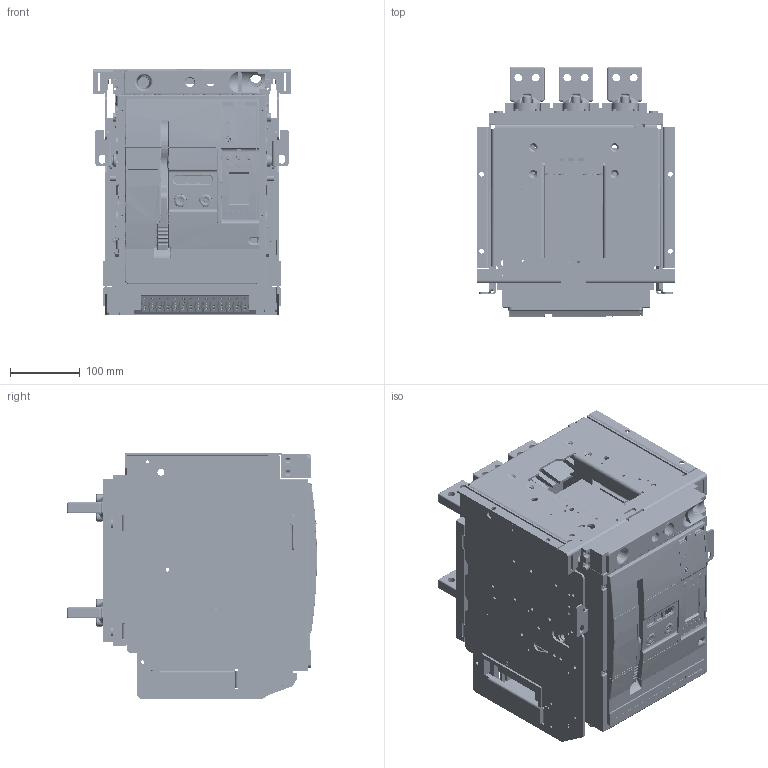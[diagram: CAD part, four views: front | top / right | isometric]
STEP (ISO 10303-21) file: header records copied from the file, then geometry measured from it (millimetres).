
FILE_DESCRIPTION(/* description */ (''),/* implementation_level */ '2;1');
FILE_NAME(/* name */ 'C:/Users/carlos.gonzalez/Documents/ADRIAN_TEMP_DRAWING/Ex9A16_PUBLIC_PB_Drawing.step',/* time_stamp */ '2021-10-14T11:50:00+02:00',/* author */ (''),/* organization */ (''),/* preprocessor_version */ 'ST-DEVELOPER v18.1',/* originating_system */ 'Autodesk Translation Framework v10.10.0.1391',/* authorisation */ '');
FILE_SCHEMA (('AUTOMOTIVE_DESIGN { 1 0 10303 214 3 1 1 }'));
Products named in the file (140): Ex9A16_PUBLIC; internal components (1); Cassette (1); 6229A0003_ASM_1_ASM (1); 5024A0012_ASM_1_ASM (1); 8055A0004_1 (1); 5300A0007_ASM_1_ASM (1); 8300A0002_1 (1); 5050A0008_ASM_1_ASM (1); 5050A0004_ASM_1_ASM (1); 8050A0001_1 (1); 5261A0002_ASM_1_ASM (1); 8261A0002_1 (1); 5050A0007_ASM_1_ASM (1); 5050A0003_ASM_1_ASM (1); 8050A0002_1 (1); 5261A0001_ASM_1_ASM (1); 8261A0001_1 (1); 5300A0010_ASM_1_ASM (1); 5300A0009_ASM_1_ASM (1); 5300A0007-1_1 (1); GB030019_1 (1); 8754A0002_1 (1); 8101A0001_1 (1); 8300A0011_1 (1); GB040061_1 (1); 8196A0002_1 (1); 8040A0012_1 (1); 8040A0013_1 (1); 5024A0010_ASM_1_ASM (1); 5024A0013_ASM_1_ASM (1); 5024A0013-1_1 (1); 8946A0007_1 (1); GB030018_1 (1); 8580A0002_1 (1); GB050010_1 (1); GB040052_1 (1); Auxiliary terminals (1); 5558A0005_ASM_1_ASM (1); 8064A0003_1 (1)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
Assembly tree (479 placements, depth 7):
  Ex9A16_PUBLIC
    internal components (1)
      Cassette (1)
        6229A0003_ASM_1_ASM (1)
          5024A0012_ASM_1_ASM (1)
            8055A0004_1 (1)
            5300A0007_ASM_1_ASM (1)
              8300A0002_1 (1)
          5050A0008_ASM_1_ASM (1)
            5050A0004_ASM_1_ASM (1)
              8050A0001_1 (1)
            5261A0002_ASM_1_ASM (1)
              8261A0002_1 (1)
          5050A0007_ASM_1_ASM (1)
            5050A0003_ASM_1_ASM (1)
              8050A0002_1 (1)
            5261A0001_ASM_1_ASM (1)
              8261A0001_1 (1)
          5300A0010_ASM_1_ASM (1)
            5300A0009_ASM_1_ASM (1)
              5300A0007-1_1 (1)
              GB030019_1 (1)  x8
            8754A0002_1 (1)  x3
            8101A0001_1 (1)  x3
            8300A0011_1 (1)
            GB070011_1 (1)  x9
            GB050022_1 (1)  x8
            GB040061_1 (1)  x8
          8196A0002_1 (1)
          8040A0012_1 (1)
          8040A0013_1 (1)
          5024A0010_ASM_1_ASM (1)
            5024A0013_ASM_1_ASM (1)
              5024A0013-1_1 (1)
              8946A0007_1 (1)  x24
              GB030018_1 (1)  x8
          8580A0002_1 (1)  x6
          GB050010_1 (1)  x16
          GB040052_1 (1)  x16
        Auxiliary terminals (1)
          5558A0005_ASM_1_ASM (1)
            8064A0003_1 (1)
            5558A0006_ASM_1_ASM (1)
              8024A0003_1 (1)
              8557A0004_1 (1)
              8557A0002_1 (1)
              8557A0003_1 (1)
              8557A0005_1 (1)
              GB030004_1 (1)  x4
              GB040057_1 (1)  x4
            5558A0006_ASM_1_ASM (1)_1
              8024A0003_1 (1)
              8557A0004_1 (1)
              8557A0002_1 (1)
              8557A0003_1 (1)
              8557A0005_1 (1)
              GB030004_1 (1)  x4
              GB040057_1 (1)  x4
            5558A0006_ASM_1_ASM (1)_2
              8024A0003_1 (1)
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Bounding box: 282 x 356.76 x 351.63 mm (x, y, z)
Volume: 5149270.3 mm3; surface area: 2677330.9 mm2
Topology: 399 solids, 604 shells, 18164 faces, 47263 edges, 30575 vertices
Faces by surface type: plane 11871, cylinder 3917, cone 1164, bspline 702, torus 327, sphere 183
Full cylindrical faces by diameter (mm): 0.4 x2, 1 x2, 1.8 x140, 1.9 x14, 2 x21, 2.1 x2, 2.2 x10, 2.246 x56, 2.4 x4, 2.459 x60, 2.5 x8, 3 x230, 3.1 x7, 3.242 x24, 3.4 x24, 3.5 x14, 4 x154, 4.1 x6, 4.134 x2, 4.2 x20, 4.3 x11, 4.5 x12, 5 x126, 5.1 x11, 5.3 x2, 5.5 x14, 5.6 x10, 5.8 x1, 6 x84, 6.1 x5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
Entity records: 245275 total; most frequent: CARTESIAN_POINT 69487, ORIENTED_EDGE 35799, DIRECTION 35445, EDGE_CURVE 17954, LINE 12579, VECTOR 12579, VERTEX_POINT 11727, AXIS2_PLACEMENT_3D 11433
